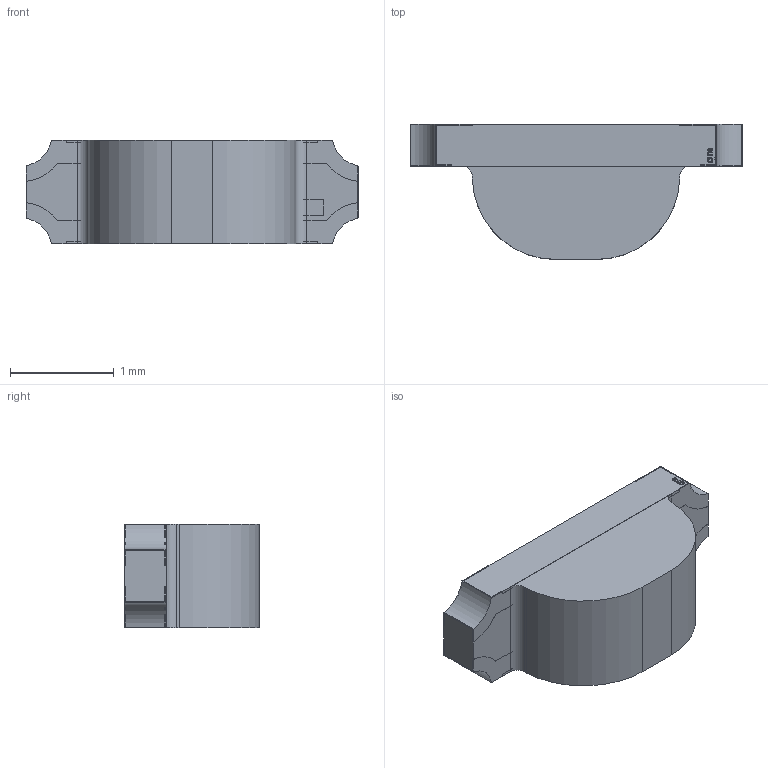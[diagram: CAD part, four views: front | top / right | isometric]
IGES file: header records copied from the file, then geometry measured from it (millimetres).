
Start section: Data from Parasolid IGES Translator 23.1.110, Copyright(c) 2006 Siemens PLM Software. All Rights Reserved.
Global section: file name: 5fab0bb6ec18cb0e88eab6e5.iges; native system: By Siemens PLM Incorporated; preprocessor: XPlus GENERIC/IGES 23.1.110; author: Noname; organization: Noname; date: 20201110.215255; units: metre
Bounding box: 3.2 x 1.3 x 1 mm (x, y, z)
Surface area: 24.1 mm2 (no closed solid volume)
Topology: 0 solids, 0 shells, 237 faces, 1286 edges, 1286 vertices
Faces by surface type: extrusion 205, revolution 32
